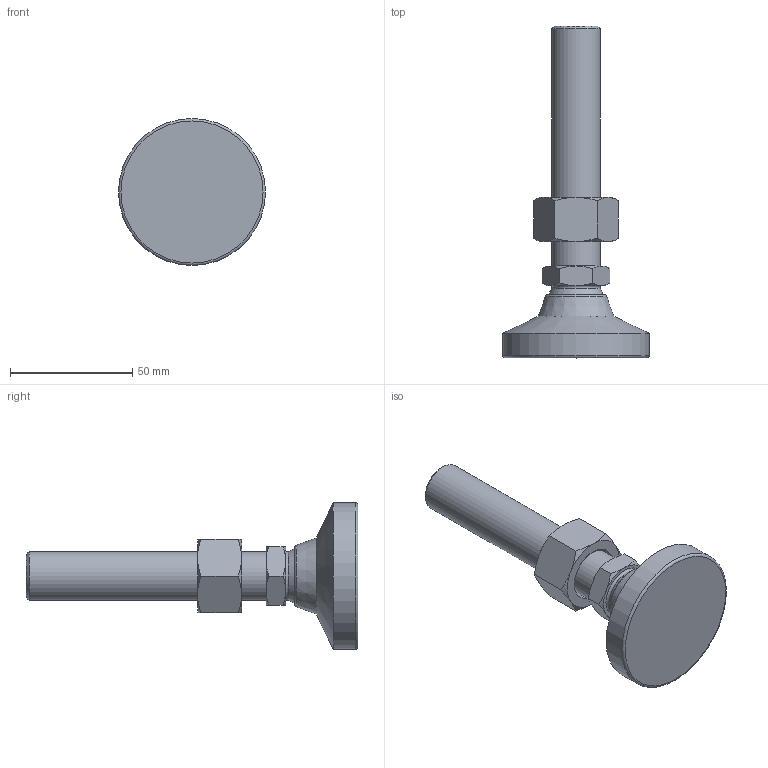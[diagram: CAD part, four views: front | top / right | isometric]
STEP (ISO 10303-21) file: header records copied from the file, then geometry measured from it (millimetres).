
FILE_DESCRIPTION( ( 'STEP AP214' ), ' ' );
FILE_NAME( 'O:/ganter_2015/teil_2/2_5/gn343_2/gn343_2_ks/Levelling foot with threaded stud GN 343.2-60-M20-98-KS-(0).stp', '2015-10-26T09:11:36', ( '' ), ( '' ), ' ', 'PARTsolutions', ' ' );
FILE_SCHEMA( ( 'AUTOMOTIVE_DESIGN { 1 0 10303 214 1 1 1 1 }' ) );
Length unit declared in the file: millimetre
Products named in the file (4): Levelling foot with threaded stud GN 343.2-60-M20-98-KS-(0); _Levelling foot with threaded stud GN 343.2-60-M20-98-KS-(0)_foot; _Gelenkfuss mit Schraube GN 343.2-60-M20-98-KS-(0)_screw; _GLevelling foot with threaded stud GN 343.2-60-M20-98-KS-(0)_nut
Assembly tree (3 placements, depth 2):
  Levelling foot with threaded stud GN 343.2-60-M20-98-KS-(0)
    _Levelling foot with threaded stud GN 343.2-60-M20-98-KS-(0)_foot
    _Gelenkfuss mit Schraube GN 343.2-60-M20-98-KS-(0)_screw
    _GLevelling foot with threaded stud GN 343.2-60-M20-98-KS-(0)_nut
Bounding box: 60 x 135.5 x 60 mm (x, y, z)
Volume: 90907.5 mm3; surface area: 21531.3 mm2
Topology: 3 solids, 3 shells, 56 faces, 117 edges, 68 vertices
Faces by surface type: cone 29, plane 19, torus 3, cylinder 3, sphere 2
Full cylindrical faces by diameter (mm): 17.294 x1, 20 x1, 60 x1
Entity records: 2090 total; most frequent: CARTESIAN_POINT 522, DIRECTION 212, ORIENTED_EDGE 200, AXIS2_PLACEMENT_3D 100, EDGE_CURVE 100, EDGE_LOOP 72, VERTEX_POINT 66, FACE_OUTER_BOUND 62
